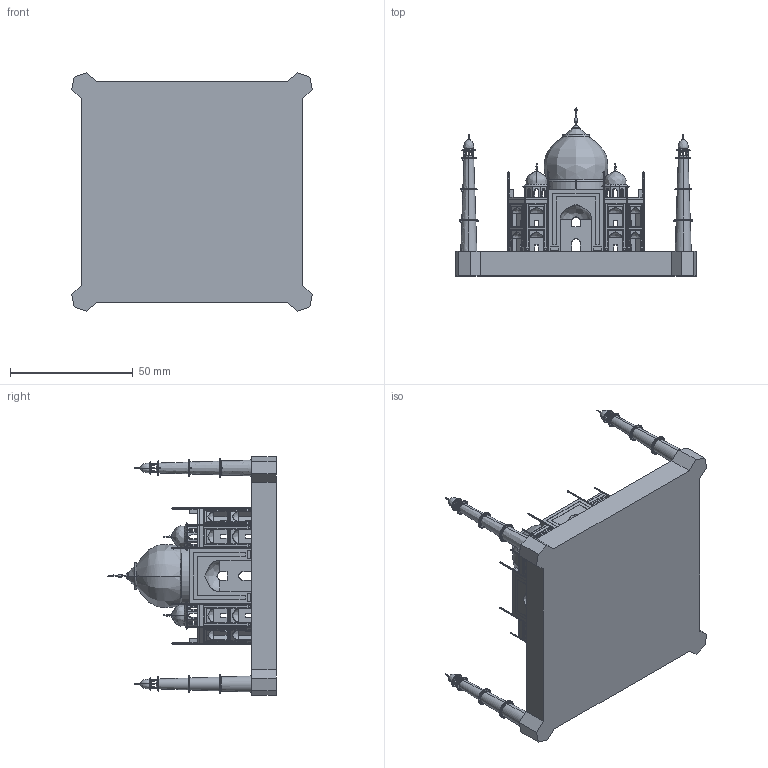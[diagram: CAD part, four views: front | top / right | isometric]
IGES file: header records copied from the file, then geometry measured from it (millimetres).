
Start section: SolidWorks IGES file using analytic representation for surfaces
Global section: file name: F:\downloads\iges\taj mahal.IGS; native system: SolidWorks 2010; preprocessor: SolidWorks 2010; author: dv6; date: 120214.134427; units: millimetre
Bounding box: 98 x 68.55 x 97.01 mm (x, y, z)
Surface area: 43722.5 mm2 (no closed solid volume)
Topology: 0 solids, 0 shells, 2413 faces, 17561 edges, 17430 vertices
Faces by surface type: bspline 1961, revolution 452
